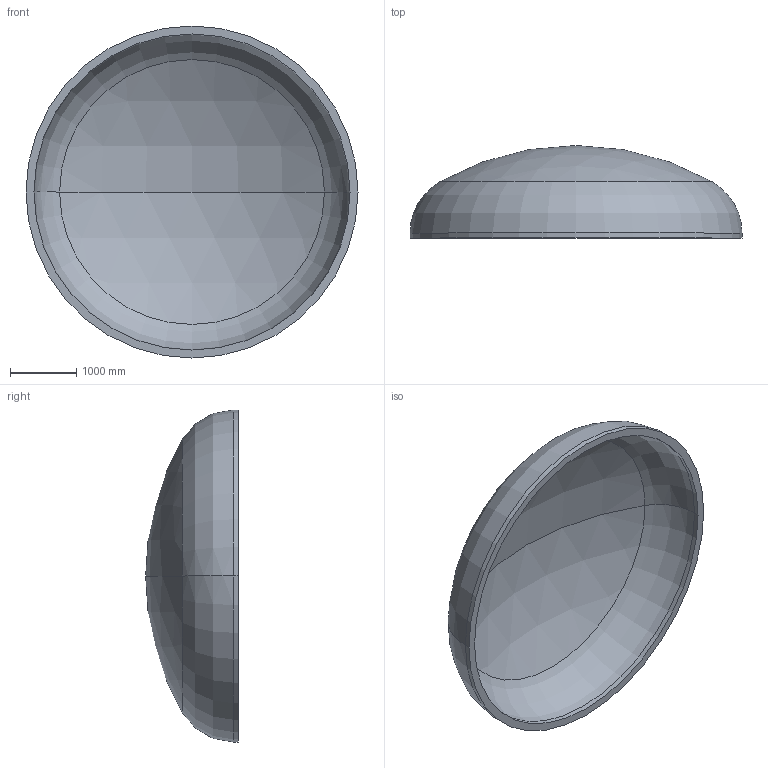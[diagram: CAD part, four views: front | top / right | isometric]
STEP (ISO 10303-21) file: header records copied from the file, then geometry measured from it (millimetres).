
FILE_DESCRIPTION (( 'STEP AP203' ), '1' );
FILE_NAME ('DIN 28013 Korbbogenform_-_Boden DIN 28013 - 5000 x 75 - I - s=120.step', '2016-07-02T01:06:03', ( '' ), ( '' ), 'SwSTEP 2.0', 'SolidWorks 2013', '' );
FILE_SCHEMA (( 'CONFIG_CONTROL_DESIGN' ));
Length unit declared in the file: millimetre
Products named in the file (1): DIN 28013 Korbbogenform_-_Boden DIN 28013 - 5000 x 75 - I - s=120
Bounding box: 5000 x 1394.86 x 5000 mm (x, y, z)
Volume: 3300072392.6 mm3; surface area: 56871062.8 mm2
Topology: 1 solids, 1 shells, 13 faces, 24 edges, 14 vertices
Faces by surface type: torus 4, cylinder 4, sphere 4, plane 1
Entity records: 407 total; most frequent: DIRECTION 72, CARTESIAN_POINT 52, ORIENTED_EDGE 48, AXIS2_PLACEMENT_3D 34, EDGE_CURVE 24, CIRCLE 20, EDGE_LOOP 14, VERTEX_POINT 14
